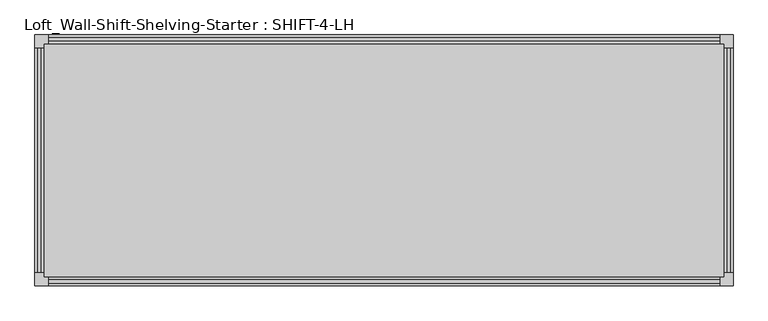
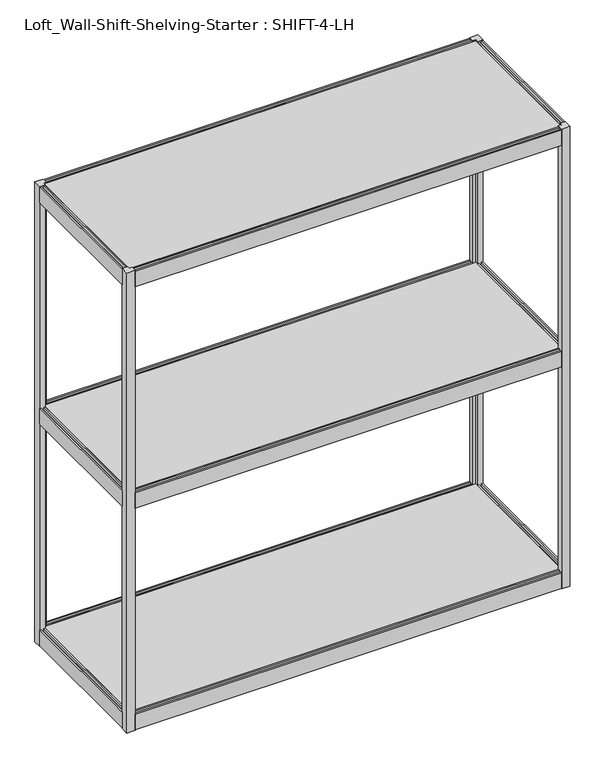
"""IFC4 building model written with IfcOpenShell, lengths in millimetres: furniture geometry, Loft_Wall-Shift-Shelving-Starter : SHIFT-4-LH."""

from ifc_helpers import new_model, si_unit, frame, origin, origin_with_axes, place, context, project, spatial, polyline, outline, extrude, source, transform, mapped, element, save


def loft_wall_shift_shelving_starter_shift_4_lh_eeeddb5a(model_context):
    return source(origin(), model_context, "Body", "SweptSolid", [
        extrude(outline(polyline([(690.9435, -609.6), (645.7315, -609.6), (645.7315, -605.5868), (653.3896, -605.5868), (653.3896, -598.3732), (645.7315, -598.3732), (645.7315, -594.36), (690.9435, -594.36), (690.9435, -598.3732), (683.2854, -598.3732), (683.2854, -605.5868), (690.9435, -605.5868), (690.9435, -609.6)])), frame((0.0, -196.215, 0.0), z_axis=(0.0, 1.0, 0.0), x_axis=(0.0, 0.0, 1.0)), (0.0, 0.0, 1.0), 392.43),
        extrude(outline(polyline([(690.9435, 609.6), (690.9435, 605.5868), (683.2854, 605.5868), (683.2854, 598.3732), (690.9435, 598.3732), (690.9435, 594.36), (645.7315, 594.36), (645.7315, 598.3732), (653.3896, 598.3732), (653.3896, 605.5868), (645.7315, 605.5868), (645.7315, 609.6), (690.9435, 609.6)])), frame((0.0, -196.215, 0.0), z_axis=(0.0, 1.0, 0.0), x_axis=(0.0, 0.0, 1.0)), (0.0, 0.0, 1.0), 392.43),
        extrude(outline(polyline([(-203.835, 645.7315), (-207.8482, 645.7315), (-207.8482, 653.3896), (-215.0618, 653.3896), (-215.0618, 645.7315), (-219.075, 645.7315), (-219.075, 690.9435), (-215.0618, 690.9435), (-215.0618, 683.2854), (-207.8482, 683.2854), (-207.8482, 690.9435), (-203.835, 690.9435), (-203.835, 645.7315)])), frame((-586.74, 0.0, 0.0), z_axis=(1.0, 0.0, 0.0), x_axis=(0.0, 1.0, 0.0)), (0.0, 0.0, 1.0), 1173.48),
        extrude(outline(polyline([(203.835, 645.7315), (203.835, 690.9435), (207.8482, 690.9435), (207.8482, 683.2854), (215.0618, 683.2854), (215.0618, 690.9435), (219.075, 690.9435), (219.075, 645.7315), (215.0618, 645.7315), (215.0618, 653.3896), (207.8482, 653.3896), (207.8482, 645.7315), (203.835, 645.7315)])), frame((-586.74, 0.0, 0.0), z_axis=(1.0, 0.0, 0.0), x_axis=(0.0, 1.0, 0.0)), (0.0, 0.0, 1.0), 1173.48),
        extrude(outline(polyline([(594.36, 203.835), (594.36, -203.835), (-594.36, -203.835), (-594.36, 203.835), (594.36, 203.835)])), frame((0.0, 0.0, 675.5101509), z_axis=(0.0, 0.0, 1.0), x_axis=(1.0, 0.0, 0.0)), (0.0, 0.0, 1.0), 15.4333491),
        extrude(outline(polyline([(1334.4525, -609.6), (1289.2405, -609.6), (1289.2405, -605.5868), (1296.8986, -605.5868), (1296.8986, -598.3732), (1289.2405, -598.3732), (1289.2405, -594.36), (1334.4525, -594.36), (1334.4525, -598.3732), (1326.7944, -598.3732), (1326.7944, -605.5868), (1334.4525, -605.5868), (1334.4525, -609.6)])), frame((0.0, -196.215, 0.0), z_axis=(0.0, 1.0, 0.0), x_axis=(0.0, 0.0, 1.0)), (0.0, 0.0, 1.0), 392.43),
        extrude(outline(polyline([(1334.4525, 609.6), (1334.4525, 605.5868), (1326.7944, 605.5868), (1326.7944, 598.3732), (1334.4525, 598.3732), (1334.4525, 594.36), (1289.2405, 594.36), (1289.2405, 598.3732), (1296.8986, 598.3732), (1296.8986, 605.5868), (1289.2405, 605.5868), (1289.2405, 609.6), (1334.4525, 609.6)])), frame((0.0, -196.215, 0.0), z_axis=(0.0, 1.0, 0.0), x_axis=(0.0, 0.0, 1.0)), (0.0, 0.0, 1.0), 392.43),
        extrude(outline(polyline([(-203.835, 1289.2405), (-207.8482, 1289.2405), (-207.8482, 1296.8986), (-215.0618, 1296.8986), (-215.0618, 1289.2405), (-219.075, 1289.2405), (-219.075, 1334.4525), (-215.0618, 1334.4525), (-215.0618, 1326.7944), (-207.8482, 1326.7944), (-207.8482, 1334.4525), (-203.835, 1334.4525), (-203.835, 1289.2405)])), frame((-586.74, 0.0, 0.0), z_axis=(1.0, 0.0, 0.0), x_axis=(0.0, 1.0, 0.0)), (0.0, 0.0, 1.0), 1173.48),
        extrude(outline(polyline([(203.835, 1289.2405), (203.835, 1334.4525), (207.8482, 1334.4525), (207.8482, 1326.7944), (215.0618, 1326.7944), (215.0618, 1334.4525), (219.075, 1334.4525), (219.075, 1289.2405), (215.0618, 1289.2405), (215.0618, 1296.8986), (207.8482, 1296.8986), (207.8482, 1289.2405), (203.835, 1289.2405)])), frame((-586.74, 0.0, 0.0), z_axis=(1.0, 0.0, 0.0), x_axis=(0.0, 1.0, 0.0)), (0.0, 0.0, 1.0), 1173.48),
        extrude(outline(polyline([(594.36, 203.835), (594.36, -203.835), (-594.36, -203.835), (-594.36, 203.835), (594.36, 203.835)])), frame((0.0, 0.0, 1319.0191509), z_axis=(0.0, 0.0, 1.0), x_axis=(1.0, 0.0, 0.0)), (0.0, 0.0, 1.0), 15.4333491),
        extrude(outline(polyline([(47.4345, -609.6), (2.2225, -609.6), (2.2225, -605.5868), (9.8806, -605.5868), (9.8806, -598.3732), (2.2225, -598.3732), (2.2225, -594.36), (47.4345, -594.36), (47.4345, -598.3732), (39.7764, -598.3732), (39.7764, -605.5868), (47.4345, -605.5868), (47.4345, -609.6)])), frame((0.0, -196.215, 0.0), z_axis=(0.0, 1.0, 0.0), x_axis=(0.0, 0.0, 1.0)), (0.0, 0.0, 1.0), 392.43),
        extrude(outline(polyline([(47.4345, 609.6), (47.4345, 605.5868), (39.7764, 605.5868), (39.7764, 598.3732), (47.4345, 598.3732), (47.4345, 594.36), (2.2225, 594.36), (2.2225, 598.3732), (9.8806, 598.3732), (9.8806, 605.5868), (2.2225, 605.5868), (2.2225, 609.6), (47.4345, 609.6)])), frame((0.0, -196.215, 0.0), z_axis=(0.0, 1.0, 0.0), x_axis=(0.0, 0.0, 1.0)), (0.0, 0.0, 1.0), 392.43),
        extrude(outline(polyline([(-203.835, 2.2225), (-207.8482, 2.2225), (-207.8482, 9.8806), (-215.0618, 9.8806), (-215.0618, 2.2225), (-219.075, 2.2225), (-219.075, 47.4345), (-215.0618, 47.4345), (-215.0618, 39.7764), (-207.8482, 39.7764), (-207.8482, 47.4345), (-203.835, 47.4345), (-203.835, 2.2225)])), frame((-586.74, 0.0, 0.0), z_axis=(1.0, 0.0, 0.0), x_axis=(0.0, 1.0, 0.0)), (0.0, 0.0, 1.0), 1173.48),
        extrude(outline(polyline([(203.835, 2.2225), (203.835, 47.4345), (207.8482, 47.4345), (207.8482, 39.7764), (215.0618, 39.7764), (215.0618, 47.4345), (219.075, 47.4345), (219.075, 2.2225), (215.0618, 2.2225), (215.0618, 9.8806), (207.8482, 9.8806), (207.8482, 2.2225), (203.835, 2.2225)])), frame((-586.74, 0.0, 0.0), z_axis=(1.0, 0.0, 0.0), x_axis=(0.0, 1.0, 0.0)), (0.0, 0.0, 1.0), 1173.48),
        extrude(outline(polyline([(594.36, 203.835), (594.36, -203.835), (-594.36, -203.835), (-594.36, 203.835), (594.36, 203.835)])), frame((0.0, 0.0, 32.0011509), z_axis=(0.0, 0.0, 1.0), x_axis=(1.0, 0.0, 0.0)), (0.0, 0.0, 1.0), 15.4333491),
        extrude(outline(polyline([(-586.74, -203.835), (-586.74, -219.075), (-609.6, -219.075), (-609.6, -196.215), (-594.36, -196.215), (-594.36, -203.835), (-586.74, -203.835)])), origin_with_axes(), (0.0, 0.0, 1.0), 1336.675),
        extrude(outline(polyline([(586.74, -203.835), (594.36, -203.835), (594.36, -196.215), (609.6, -196.215), (609.6, -219.075), (586.74, -219.075), (586.74, -203.835)])), origin_with_axes(), (0.0, 0.0, 1.0), 1336.675),
        extrude(outline(polyline([(-586.74, 203.835), (-594.36, 203.835), (-594.36, 196.215), (-609.6, 196.215), (-609.6, 219.075), (-586.74, 219.075), (-586.74, 203.835)])), origin_with_axes(), (0.0, 0.0, 1.0), 1336.675),
        extrude(outline(polyline([(586.74, 203.835), (586.74, 219.075), (609.6, 219.075), (609.6, 196.215), (594.36, 196.215), (594.36, 203.835), (586.74, 203.835)])), origin_with_axes(), (0.0, 0.0, 1.0), 1336.675),
    ])


if __name__ == "__main__":
    model = new_model("IFC4")
    model_context = context("Model", 3, world=origin())
    ifc_project = project(units=[si_unit("LENGTHUNIT", "METRE", prefix="MILLI")], contexts=[model_context])
    site = spatial("IfcSite", under=ifc_project)
    building = spatial("IfcBuilding", under=site)
    placement = place(None, origin())
    loft_wall_shift_shelving_starter_shift_4_lh_shape = loft_wall_shift_shelving_starter_shift_4_lh_eeeddb5a(model_context)
    element("IfcFurniture", 1, ObjectType="Loft_Wall-Shift-Shelving-Starter : SHIFT-4-LH", at=placement, inside=building, context=model_context, shape_type="MappedRepresentation", body=[
        mapped(loft_wall_shift_shelving_starter_shift_4_lh_shape, transform((0.0, 0.0, 0.0), x_axis=(1.0, 0.0, 0.0), y_axis=(0.0, 1.0, 0.0), z_axis=(0.0, 0.0, 1.0))),
    ])
    save(model, "model.ifc")
